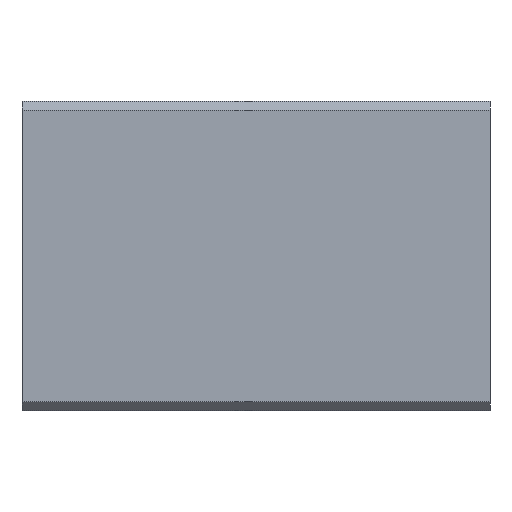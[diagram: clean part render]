
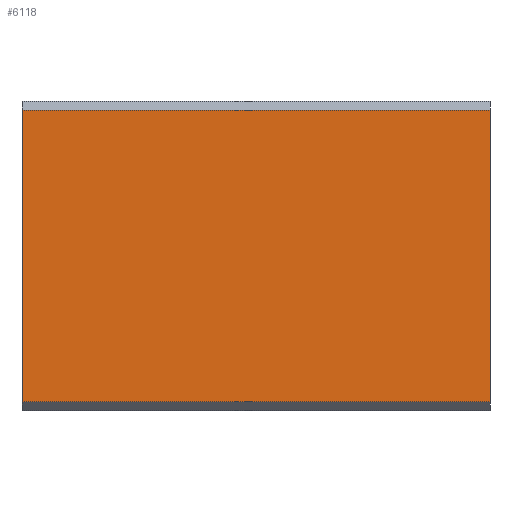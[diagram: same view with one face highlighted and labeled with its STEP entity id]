
A CAD part, front view. The second image highlights one B-rep face of the part: STEP entity #6118.
In plain terms, the highlighted planar face has unit normal (0, -1, 0).
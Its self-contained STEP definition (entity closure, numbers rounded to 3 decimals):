
#15 = AXIS2_PLACEMENT_3D ( 'NONE', #9847, #60, #11516 ) ;
#60 = DIRECTION ( 'NONE',  ( 0., 1., 0. ) ) ;
#322 = VECTOR ( 'NONE', #4258, 1000. ) ;
#362 = CARTESIAN_POINT ( 'NONE',  ( 53., -17.5, 16.5 ) ) ;
#1578 = VERTEX_POINT ( 'NONE', #13567 ) ;
#1651 = PLANE ( 'NONE',  #15 ) ;
#2128 = EDGE_CURVE ( 'NONE', #6514, #6055, #5048, .T. ) ;
#2249 = VECTOR ( 'NONE', #6211, 1000. ) ;
#3174 = LINE ( 'NONE', #14419, #7537 ) ;
#4258 = DIRECTION ( 'NONE',  ( 0., 0., -1. ) ) ;
#5048 = LINE ( 'NONE', #19449, #2249 ) ;
#6055 = VERTEX_POINT ( 'NONE', #9496 ) ;
#6118 = ADVANCED_FACE ( 'NONE', ( #19180 ), #1651, .F. ) ;
#6119 = CARTESIAN_POINT ( 'NONE',  ( 0., -17.5, -16.5 ) ) ;
#6211 = DIRECTION ( 'NONE',  ( 0., 0., -1. ) ) ;
#6443 = EDGE_CURVE ( 'NONE', #21100, #6055, #3174, .T. ) ;
#6514 = VERTEX_POINT ( 'NONE', #14636 ) ;
#6819 = EDGE_CURVE ( 'NONE', #1578, #21100, #9029, .T. ) ;
#7191 = EDGE_CURVE ( 'NONE', #6514, #1578, #7366, .T. ) ;
#7366 = LINE ( 'NONE', #362, #19992 ) ;
#7537 = VECTOR ( 'NONE', #16079, 1000. ) ;
#9029 = LINE ( 'NONE', #14100, #322 ) ;
#9496 = CARTESIAN_POINT ( 'NONE',  ( 53., -17.5, -16.5 ) ) ;
#9847 = CARTESIAN_POINT ( 'NONE',  ( 53., -17.5, 17.5 ) ) ;
#10138 = DIRECTION ( 'NONE',  ( -1., 0., 0. ) ) ;
#11516 = DIRECTION ( 'NONE',  ( 0., 0., 1. ) ) ;
#12073 = ORIENTED_EDGE ( 'NONE', *, *, #6819, .T. ) ;
#12352 = ORIENTED_EDGE ( 'NONE', *, *, #6443, .T. ) ;
#13249 = ORIENTED_EDGE ( 'NONE', *, *, #2128, .F. ) ;
#13567 = CARTESIAN_POINT ( 'NONE',  ( 0., -17.5, 16.5 ) ) ;
#14100 = CARTESIAN_POINT ( 'NONE',  ( 0., -17.5, 17.5 ) ) ;
#14419 = CARTESIAN_POINT ( 'NONE',  ( 53., -17.5, -16.5 ) ) ;
#14636 = CARTESIAN_POINT ( 'NONE',  ( 53., -17.5, 16.5 ) ) ;
#15123 = EDGE_LOOP ( 'NONE', ( #12073, #12352, #13249, #17158 ) ) ;
#16079 = DIRECTION ( 'NONE',  ( 1., 0., 0. ) ) ;
#17158 = ORIENTED_EDGE ( 'NONE', *, *, #7191, .T. ) ;
#19180 = FACE_OUTER_BOUND ( 'NONE', #15123, .T. ) ;
#19449 = CARTESIAN_POINT ( 'NONE',  ( 53., -17.5, 17.5 ) ) ;
#19992 = VECTOR ( 'NONE', #10138, 1000. ) ;
#21100 = VERTEX_POINT ( 'NONE', #6119 ) ;
